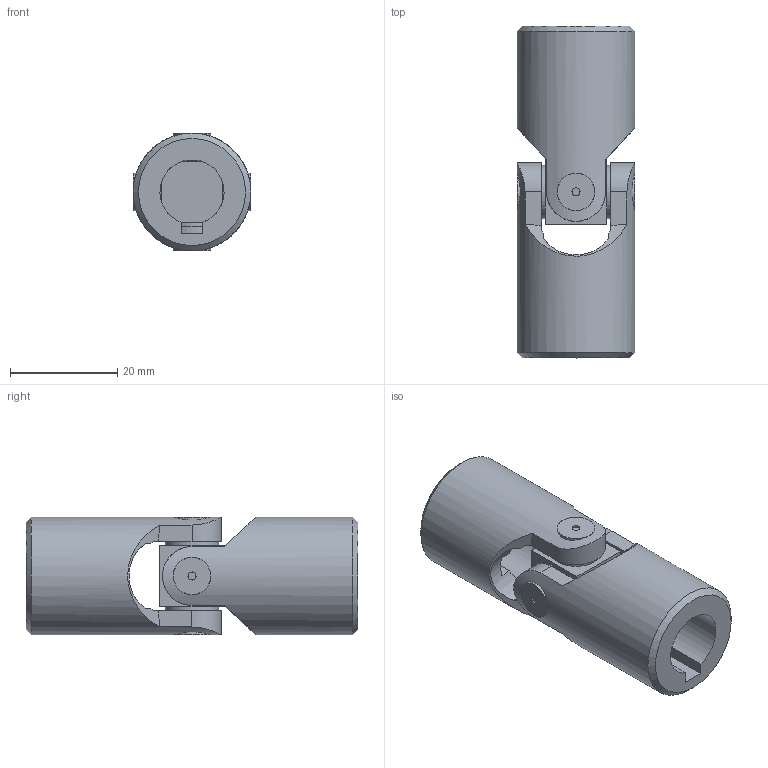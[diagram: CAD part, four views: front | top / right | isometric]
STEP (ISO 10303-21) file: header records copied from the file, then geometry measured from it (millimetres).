
FILE_DESCRIPTION(/* description */ ('EXTENSIBLE TRANSIMISSIONS Series G DIN 808 -2-'),/* implementation_level */ '2;1');
FILE_NAME(/* name */ '\\SRV2016\Societa\Stefano\Disegni 3D\Dis. Clienti\0000Catalogo 3D\01Singoli G-GB\Ø22_!04GB-2C_SGBS122C.stp',/* time_stamp */ '2021-11-10T15:13:09+01:00',/* author */ ('acquisti'),/* organization */ ('MARIOFERRI'),/* preprocessor_version */ 'ST-DEVELOPER v15.6',/* originating_system */ 'Autodesk Inventor 2015',/* authorisation */ '');
FILE_SCHEMA (('AUTOMOTIVE_DESIGN { 1 0 10303 214 3 1 1 }'));
Length unit declared in the file: millimetre
Products named in the file (3): 03G SFE; 04GB MOC; Assieme5
Assembly tree (3 placements, depth 2):
  Assieme5
    03G SFE
    04GB MOC  x2
Bounding box: 22 x 62 x 22 mm (x, y, z)
Volume: 15173.3 mm3; surface area: 8066.7 mm2
Topology: 3 solids, 3 shells, 80 faces, 188 edges, 122 vertices
Faces by surface type: plane 42, cylinder 24, cone 10, torus 4
Full cylindrical faces by diameter (mm): 1.5 x4, 10 x4, 22 x2
Entity records: 1533 total; most frequent: CARTESIAN_POINT 480, DIRECTION 207, ORIENTED_EDGE 192, EDGE_CURVE 96, AXIS2_PLACEMENT_3D 88, VERTEX_POINT 68, EDGE_LOOP 64, FACE_OUTER_BOUND 47
